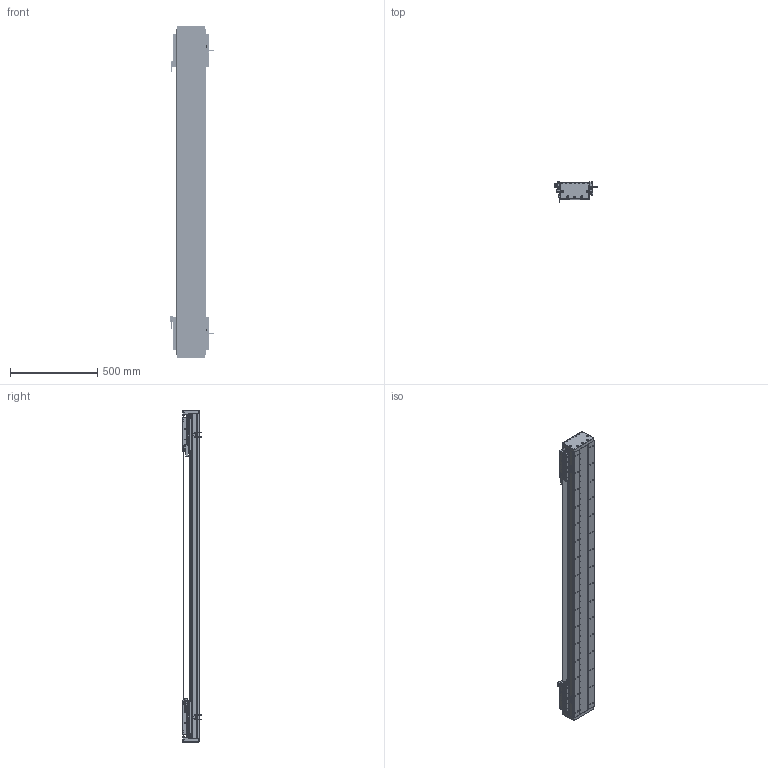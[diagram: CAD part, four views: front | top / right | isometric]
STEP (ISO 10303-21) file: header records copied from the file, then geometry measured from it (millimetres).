
FILE_DESCRIPTION (( 'STEP AP203' ), '1' );
FILE_NAME ('DA-C165-2-C2-T1400-C010-0.2 直线电机.STEP', '2023-05-11T08:22:02', ( '微软用户' ), ( '微软中国' ), 'SwSTEP 2.0', 'SolidWorks 2019', '' );
FILE_SCHEMA (( 'CONFIG_CONTROL_DESIGN' ));
Length unit declared in the file: millimetre
Products named in the file (22): 复件 DMA-010-0.2 读数头^DA-C165-C2-T-C010-0.2-N 直线电机; 珨极趙賑雄怢啣wf-C2; 复件 CU165钢带组件^DA-C165-C2-T-C010-0.2-N 直线电机; 复件 DA165-GDYK-00 钢带压块^复件 CU165钢带组件_DA-C165-C2-T-C010-0.2-N 直线电机; 复件 DKW-HXJ-JY-00 缓冲橡胶^DA-C165-C2-T-C010-0.2-N 直线电机; 葩璃 CKM01-W075-TRL^DA-C165-C2-T-C010-0.2-N 眻盄萇儂; 葩璃 DA95-GT-T-00^IU-CU165-L 菁釱絳寢_T; 复件 DA95-HXJ-00 缓冲橡胶^DA-C165-C2-T-C010-0.2-N 直线电机; 复件 DA165-GDLK-00 钢带拉块^复件 CU165钢带组件_DA-C165-C2-T-C010-0.2-N 直线电机; 复件 DA165-GD-1860-002-00 钢带盖板^复件 CU165钢带组件_DA-C165-C2-T-C010-0.2-N 直线电机; 复件 CKM02-W075-C1C2-TP-3.0 一体电机-C2^DA-C165-C2-T-C010-0.2-N 直线电机; IU-CU165-L-00 菁釱_L1860; IU-CU165-L 菁釱絳寢; 复件 66338-1000-006-00 光电感应块^DA-C165-C2-T-C010-0.2-N 直线电机; 复件 DA165-GYP-00 光电感应片^DA-C165-C2-T-C010-0.2-N 直线电机; 复件 XD-U-02L 磁栅尺^DA-C165-C2-T-C010-0.2-N 直线电机_T; 复件 六角薄螺母 M3^DA-C165-C2-T-C010-0.2-N 直线电机_GB_FASTENER_NUT_STNAB M3-C; DA-C165-2-C2-T1400-C010-0.2 眻盄萇儂; 复件 DA126-GYP-ZJ-00 中间光电感应片^DA-C165-C2-T-C010-0.2-N 直线电机; 葩璃 PM-T45^DA-C165-C2-T-C010-0.2-N 眻盄萇儂; 葩璃 PM-Y45^DA-C165-C2-T-C010-0.2-N 眻盄萇儂; 复件 DA165-GD-DG-H-00 端盖^复件 CU165钢带组件_DA-C165-C2-T-C010-0.2-N 直线电机
Assembly tree (43 placements, depth 3):
  DA-C165-2-C2-T1400-C010-0.2 眻盄萇儂
    IU-CU165-L 菁釱絳寢
      IU-CU165-L-00 菁釱_L1860
      葩璃 DA95-GT-T-00^IU-CU165-L 菁釱絳寢_T  x4
    复件 XD-U-02L 磁栅尺^DA-C165-C2-T-C010-0.2-N 直线电机_T
    葩璃 PM-T45^DA-C165-C2-T-C010-0.2-N 眻盄萇儂  x4
    葩璃 CKM01-W075-TRL^DA-C165-C2-T-C010-0.2-N 眻盄萇儂
    复件 CU165钢带组件^DA-C165-C2-T-C010-0.2-N 直线电机
      复件 DA165-GD-DG-H-00 端盖^复件 CU165钢带组件_DA-C165-C2-T-C010-0.2-N 直线电机  x2
      复件 DA165-GDYK-00 钢带压块^复件 CU165钢带组件_DA-C165-C2-T-C010-0.2-N 直线电机  x2
      复件 DA165-GD-1860-002-00 钢带盖板^复件 CU165钢带组件_DA-C165-C2-T-C010-0.2-N 直线电机
      复件 DA165-GDLK-00 钢带拉块^复件 CU165钢带组件_DA-C165-C2-T-C010-0.2-N 直线电机  x2
    复件 DA95-HXJ-00 缓冲橡胶^DA-C165-C2-T-C010-0.2-N 直线电机  x4
    复件 CKM02-W075-C1C2-TP-3.0 一体电机-C2^DA-C165-C2-T-C010-0.2-N 直线电机  x2
    复件 DMA-010-0.2 读数头^DA-C165-C2-T-C010-0.2-N 直线电机  x2
    复件 DA165-GYP-00 光电感应片^DA-C165-C2-T-C010-0.2-N 直线电机  x2
    复件 66338-1000-006-00 光电感应块^DA-C165-C2-T-C010-0.2-N 直线电机
    葩璃 PM-Y45^DA-C165-C2-T-C010-0.2-N 眻盄萇儂
    复件 DA126-GYP-ZJ-00 中间光电感应片^DA-C165-C2-T-C010-0.2-N 直线电机
    复件 DKW-HXJ-JY-00 缓冲橡胶^DA-C165-C2-T-C010-0.2-N 直线电机  x2
    复件 六角薄螺母 M3^DA-C165-C2-T-C010-0.2-N 直线电机_GB_FASTENER_NUT_STNAB M3-C  x6
    珨极趙賑雄怢啣wf-C2  x2
Bounding box: 247.2 x 111.45 x 1900 mm (x, y, z)
Volume: 12722830.7 mm3; surface area: 3576367.3 mm2
Topology: 119 solids, 119 shells, 5299 faces, 14548 edges, 9124 vertices
Faces by surface type: cylinder 2724, plane 1783, cone 704, torus 80, sphere 8
Entity records: 118230 total; most frequent: CARTESIAN_POINT 29941, ORIENTED_EDGE 18040, DIRECTION 17774, EDGE_CURVE 9020, AXIS2_PLACEMENT_3D 6702, VERTEX_POINT 5861, VECTOR 4370, LINE 4370
